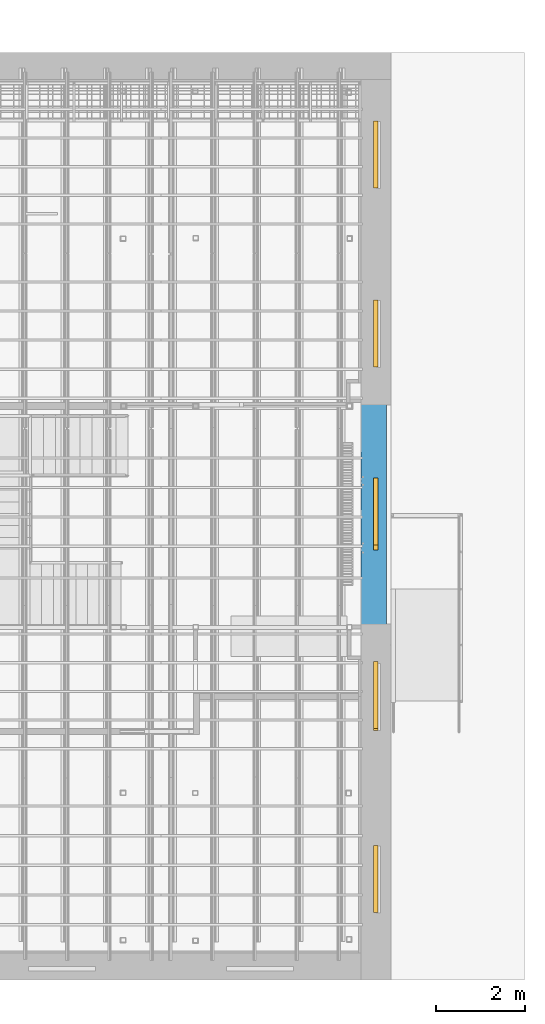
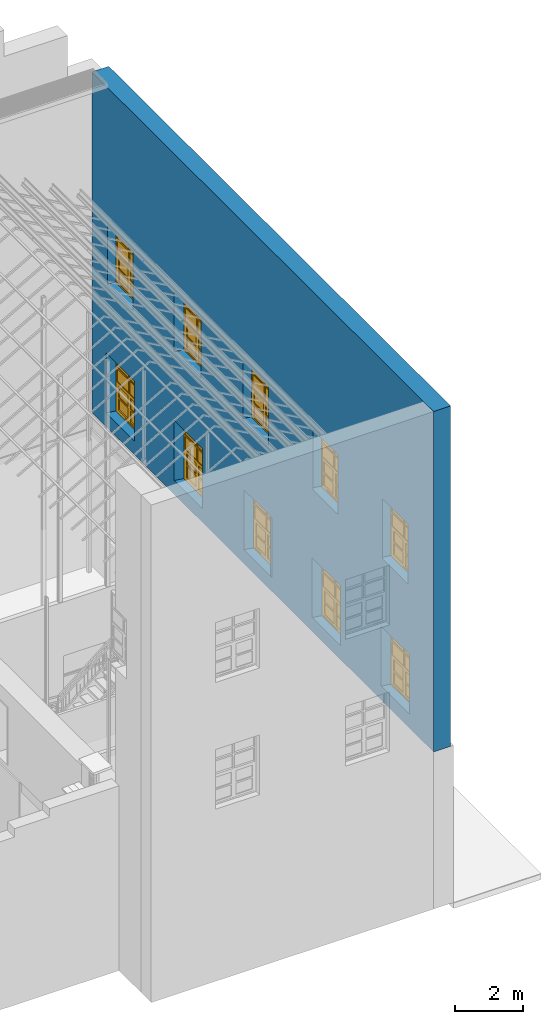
"""IFC2X3 building model written with IfcOpenShell, lengths in metres."""

import ifcopenshell
import ifcopenshell.guid

model = None  # the IFC model being written
_history = None  # IfcOwnerHistory: only IFC2X3 demands one
_inside = {}  # id of a spatial element -> (the spatial element, [elements in it])
_under = {}  # id of a project, library or spatial element -> (it, [spatial elements below it])
_declared = {}  # id of a project -> (the project, [libraries it declares])
_typed = {}  # id of a type object -> (the type object, [elements of that type])
_made_of = {}  # id of a material, layer set ... -> (it, [elements and type objects made of it])


def new_model(schema):
    """Start an empty IFC model of exactly this schema.

    Asked for "IFC4X3", IfcOpenShell would pick the latest addendum, in which some entities
    have other attributes; the version numbers below select the first issue.
    IFC2X3 requires an IfcOwnerHistory on every rooted entity: one is made here for all.
    """
    global model, _history
    if schema == "IFC4X3":
        model = ifcopenshell.file(schema_version=(4, 3, 0, 0))
    else:
        model = ifcopenshell.file(schema=schema)
    _inside.clear()
    _under.clear()
    _declared.clear()
    _typed.clear()
    _made_of.clear()
    _history = None
    if model.schema == "IFC2X3":
        org = make("IfcOrganization", Name="unknown")
        user = make(
            "IfcPersonAndOrganization",
            ThePerson=make("IfcPerson", FamilyName="unknown"),
            TheOrganization=org,
        )
        app = make(
            "IfcApplication",
            ApplicationDeveloper=org,
            Version="unknown",
            ApplicationFullName="unknown",
            ApplicationIdentifier="unknown",
        )
        _history = make(
            "IfcOwnerHistory",
            OwningUser=user,
            OwningApplication=app,
            ChangeAction="ADDED",
            CreationDate=0,
        )
    return model


def make(cls, **values):
    """One entity of the class cls with the attributes given. An attribute that is None is left unset."""
    return model.create_entity(
        cls, **{name: value for name, value in values.items() if value is not None}
    )


def entity(cls, *values):
    """Any entity or typed value of the class cls, its attributes in the order of the schema. None: left unset."""
    e = model.create_entity(cls)
    for i, value in enumerate(values):
        if value is not None:
            e[i] = value
    return e


def rooted(cls, **values):
    """An entity with a GlobalId (a new one), such as an element, a storey or a relation."""
    return make(cls, GlobalId=ifcopenshell.guid.new(), OwnerHistory=_history, **values)


def si_unit(unit_type, name, prefix=None):
    """IfcSIUnit, for example si_unit("LENGTHUNIT", "METRE", prefix="MILLI")."""
    return make("IfcSIUnit", UnitType=unit_type, Prefix=prefix, Name=name)


def converted_unit(unit_type, name, factor, base, dimensions=None, offset=None):
    """IfcConversionBasedUnit, such as the inch: factor (a typed value) times the base unit."""
    return make(
        "IfcConversionBasedUnit"
        if offset is None
        else "IfcConversionBasedUnitWithOffset",
        ConversionOffset=offset,
        Dimensions=None
        if dimensions is None
        else entity("IfcDimensionalExponents", *dimensions),
        UnitType=unit_type,
        Name=name,
        ConversionFactor=make(
            "IfcMeasureWithUnit", ValueComponent=factor, UnitComponent=base
        ),
    )


def derived_unit(unit_type, elements):
    """IfcDerivedUnit: a product of units, each with its exponent."""
    return make(
        "IfcDerivedUnit",
        Elements=[
            make("IfcDerivedUnitElement", Unit=unit, Exponent=power)
            for unit, power in elements
        ],
        UnitType=unit_type,
    )


def assignment(units):
    """IfcUnitAssignment: the units of a project."""
    return None if units is None else make("IfcUnitAssignment", Units=units)


def point(xyz):
    """IfcCartesianPoint."""
    return None if xyz is None else make("IfcCartesianPoint", Coordinates=xyz)


def direction(xyz):
    """IfcDirection."""
    return None if xyz is None else make("IfcDirection", DirectionRatios=xyz)


def frame(location, z_axis=None, x_axis=None):
    """IfcAxis2Placement3D, a coordinate frame: its origin and axes. An axis left out is left unset."""
    return make(
        "IfcAxis2Placement3D",
        Location=point(location),
        Axis=direction(z_axis),
        RefDirection=direction(x_axis),
    )


def frame_2d(location, x_axis=None):
    """IfcAxis2Placement2D, a coordinate frame in the plane: its origin and x axis."""
    return make(
        "IfcAxis2Placement2D", Location=point(location), RefDirection=direction(x_axis)
    )


def origin():
    """The frame at (0, 0, 0) with its axes left unset."""
    return frame((0.0, 0.0, 0.0))


def place(relative_to, where):
    """IfcLocalPlacement: puts the frame where relative to a parent placement (None: the world)."""
    return make(
        "IfcLocalPlacement", PlacementRelTo=relative_to, RelativePlacement=where
    )


def context(
    kind, dimensions, precision=None, world=None, true_north=None, identifier=None
):
    """IfcGeometricRepresentationContext, for example the 3D "Model" context."""
    return make(
        "IfcGeometricRepresentationContext",
        ContextIdentifier=identifier,
        ContextType=kind,
        CoordinateSpaceDimension=dimensions,
        Precision=precision,
        WorldCoordinateSystem=world,
        TrueNorth=true_north,
    )


def subcontext(parent, identifier, kind, view, scale=None):
    """IfcGeometricRepresentationSubContext, for example "Body" below "Model"."""
    return make(
        "IfcGeometricRepresentationSubContext",
        ContextIdentifier=identifier,
        ContextType=kind,
        ParentContext=parent,
        TargetScale=scale,
        TargetView=view,
    )


def project(units=None, contexts=None):
    """IfcProject with its units and contexts."""
    return rooted(
        "IfcProject",
        Name="project",
        RepresentationContexts=contexts,
        UnitsInContext=assignment(units),
    )


def spatial(cls, under=None, at=None, **own):
    """A site, building, storey or space (cls), placed at a placement, below another one or the project."""
    s = rooted(cls, ObjectPlacement=at, **own)
    if under is not None:
        _under.setdefault(under.id(), (under, []))[1].append(s)
    return s


def polyline(points):
    """IfcPolyline through the points."""
    return make("IfcPolyline", Points=[point(p) for p in points])


def profile(cls, at=None, kind="AREA", **sizes):
    """A parametric profile (cls). Its sizes go by their IFC names, for example OverallWidth=200.0."""
    return make(cls, ProfileType=kind, Position=at, **sizes)


def rectangle(**sizes):
    """IfcRectangleProfileDef."""
    return profile("IfcRectangleProfileDef", **sizes)


def outline(outer, holes=None, kind="AREA"):
    """IfcArbitraryClosedProfileDef: a profile drawn as a closed curve; with holes, ...WithVoids."""
    if holes is None:
        return make("IfcArbitraryClosedProfileDef", ProfileType=kind, OuterCurve=outer)
    return make(
        "IfcArbitraryProfileDefWithVoids",
        ProfileType=kind,
        OuterCurve=outer,
        InnerCurves=holes,
    )


def extrude(swept, where, along, depth):
    """IfcExtrudedAreaSolid: the profile swept, set in the frame where, extruded along a direction by depth."""
    return make(
        "IfcExtrudedAreaSolid",
        SweptArea=swept,
        Position=where,
        ExtrudedDirection=direction(along),
        Depth=depth,
    )


def faces_of(points, faces, orient=None, outer=None):
    """IfcFace entities. A face is a list of loops; a loop is a list of indices into points, from 0.

    orient and outer hold one flag for each loop. By default every Orientation is true, the
    first loop of a face is its IfcFaceOuterBound and the others are IfcFaceBound.
    """
    made = []
    for i, loops in enumerate(faces):
        bounds = []
        for j, loop in enumerate(loops):
            is_outer = j == 0 if outer is None else outer[i][j]
            bounds.append(
                make(
                    "IfcFaceOuterBound" if is_outer else "IfcFaceBound",
                    Bound=make("IfcPolyLoop", Polygon=[points[k] for k in loop]),
                    Orientation=True if orient is None else orient[i][j],
                )
            )
        made.append(make("IfcFace", Bounds=bounds))
    return made


def faceted_brep(points, faces, orient=None, outer=None, voids=None):
    """IfcFacetedBrep: a solid bounded by flat faces; with voids (closed shells), ...WithVoids."""
    shared = [point(p) for p in points]
    hull = make("IfcClosedShell", CfsFaces=faces_of(shared, faces, orient, outer))
    if voids is None:
        return make("IfcFacetedBrep", Outer=hull)
    return make(
        "IfcFacetedBrepWithVoids",
        Outer=hull,
        Voids=[
            make(cls, CfsFaces=faces_of(shared, fs, o, b)) for cls, fs, o, b in voids
        ],
    )


def shape(context_of_items, identifier, shape_type, items):
    """IfcShapeRepresentation: the items that make up one representation, for example the "Body"."""
    return make(
        "IfcShapeRepresentation",
        ContextOfItems=context_of_items,
        RepresentationIdentifier=identifier,
        RepresentationType=shape_type,
        Items=items,
    )


def source(mapping_origin, context_of_items, identifier, shape_type, items):
    """IfcRepresentationMap: a shape defined once, which mapped items show again and again."""
    return make(
        "IfcRepresentationMap",
        MappingOrigin=mapping_origin,
        MappedRepresentation=shape(context_of_items, identifier, shape_type, items),
    )


def transform(
    local_origin,
    x_axis=None,
    y_axis=None,
    z_axis=None,
    scale=None,
    scale2=None,
    scale3=None,
    uniform=True,
):
    """IfcCartesianTransformationOperator3D, or its non-uniform kind. x_axis, y_axis, z_axis: its Axis1, 2, 3."""
    if uniform:
        return make(
            "IfcCartesianTransformationOperator3D",
            Axis1=direction(x_axis),
            Axis2=direction(y_axis),
            LocalOrigin=point(local_origin),
            Scale=scale,
            Axis3=direction(z_axis),
        )
    return make(
        "IfcCartesianTransformationOperator3DnonUniform",
        Axis1=direction(x_axis),
        Axis2=direction(y_axis),
        LocalOrigin=point(local_origin),
        Scale=scale,
        Axis3=direction(z_axis),
        Scale2=scale2,
        Scale3=scale3,
    )


def mapped(mapping_source, mapping_target):
    """IfcMappedItem: shows the shape of a source again, moved by a transform."""
    return make(
        "IfcMappedItem", MappingSource=mapping_source, MappingTarget=mapping_target
    )


def material(Name=None, Category=None):
    """IfcMaterial."""
    return make("IfcMaterial", Name=Name, Category=Category)


def material_list(materials):
    """IfcMaterialList."""
    return make("IfcMaterialList", Materials=materials)


def layer(
    of_material, thickness, ventilated=None, Name=None, Category=None, Priority=None
):
    """IfcMaterialLayer: one layer of a wall or slab, of a material (None: an air gap)."""
    return make(
        "IfcMaterialLayer",
        Material=of_material,
        LayerThickness=thickness,
        IsVentilated=ventilated,
        Name=Name,
        Category=Category,
        Priority=Priority,
    )


def layer_set(layers, Name=None):
    """IfcMaterialLayerSet."""
    return make("IfcMaterialLayerSet", MaterialLayers=layers, LayerSetName=Name)


def layer_usage(for_layer_set, set_direction, sense, offset, extent=None):
    """IfcMaterialLayerSetUsage: how a layer set lies in its element."""
    return make(
        "IfcMaterialLayerSetUsage",
        ForLayerSet=for_layer_set,
        LayerSetDirection=set_direction,
        DirectionSense=sense,
        OffsetFromReferenceLine=offset,
        ReferenceExtent=extent,
    )


def made_of(thing, what):
    """Note that an element or type object is made of a material, layer set ...; save() writes the relation."""
    if what is not None:
        _made_of.setdefault(what.id(), (what, []))[1].append(thing)
    return thing


def type_object(cls, material=None, **own):
    """A type object (cls), such as IfcWallType, which elements share."""
    return made_of(rooted(cls, **own), material)


def type_shapes(of_type, sources):
    """Give a type object the sources (RepresentationMaps) that its elements show as mapped items."""
    of_type.RepresentationMaps = sources


def element(
    cls,
    number,
    at=None,
    inside=None,
    cuts=None,
    type_object=None,
    material=None,
    context=None,
    identifier="Body",
    shape_type=None,
    held_by="IfcProductDefinitionShape",
    body=None,
    shapes=None,
    **own,
):
    """One element of the class cls, such as IfcWall. Its Tag is "e" and its number.

    at: its placement. inside: the storey or other place that contains it. cuts: it is an
    opening in that element (IfcRelVoidsElement). A single representation is given by context,
    identifier, shape_type and body (its items); several are given by shapes. held_by: the class
    of the entity that holds the representations. save() writes the other relations.
    """
    e = rooted(cls, Tag="e%d" % number, ObjectPlacement=at, **own)
    if body is not None:
        shapes = [shape(context, identifier, shape_type, body)]
    if shapes is not None:
        e.Representation = make(held_by, Representations=shapes)
    if inside is not None:
        _inside.setdefault(inside.id(), (inside, []))[1].append(e)
    if cuts is not None:
        rooted(
            "IfcRelVoidsElement", RelatingBuildingElement=cuts, RelatedOpeningElement=e
        )
    if type_object is not None:
        _typed.setdefault(type_object.id(), (type_object, []))[1].append(e)
    return made_of(e, material)


def fill(opening, filler):
    """IfcRelFillsElement: the door or window that sits in an opening."""
    return rooted(
        "IfcRelFillsElement",
        RelatingOpeningElement=opening,
        RelatedBuildingElement=filler,
    )


def aggregate(whole, parts):
    """IfcRelAggregates: a whole, such as a stair, and the parts it consists of."""
    return rooted("IfcRelAggregates", RelatingObject=whole, RelatedObjects=parts)


def save(model, path):
    """Write the relations noted so far, then the file.

    IfcRelAggregates (storeys below a building ...), IfcRelContainedInSpatialStructure (elements
    in a storey), IfcRelDefinesByType, IfcRelAssociatesMaterial and IfcRelDeclares: one each for
    every whole, place, type object, material and project.
    """
    for whole, parts in _under.values():
        aggregate(whole, parts)
    for where, things in _inside.values():
        rooted(
            "IfcRelContainedInSpatialStructure",
            RelatedElements=things,
            RelatingStructure=where,
        )
    for kind, things in _typed.values():
        rooted("IfcRelDefinesByType", RelatedObjects=things, RelatingType=kind)
    for what, things in _made_of.values():
        rooted("IfcRelAssociatesMaterial", RelatedObjects=things, RelatingMaterial=what)
    for by, libraries in _declared.values():
        rooted("IfcRelDeclares", RelatingContext=by, RelatedDefinitions=libraries)
    model.write(path)


model = new_model("IFC2X3")

# Units and contexts
model_context = context("Model", 3, precision=1e-05, world=origin(), true_north=direction((6.12303176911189e-17, 1.0)))
body_context = subcontext(model_context, "Body", "Model", "MODEL_VIEW")
ifc_project = project(units=[si_unit("LENGTHUNIT", "METRE"), si_unit("AREAUNIT", "SQUARE_METRE"), si_unit("VOLUMEUNIT", "CUBIC_METRE"), converted_unit("PLANEANGLEUNIT", "DEGREE", entity("IfcRatioMeasure", 0.0174532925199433), si_unit("PLANEANGLEUNIT", "RADIAN"), dimensions=[0, 0, 0, 0, 0, 0, 0]), si_unit("MASSUNIT", "GRAM", prefix="KILO"), derived_unit("MASSDENSITYUNIT", [(si_unit("MASSUNIT", "GRAM", prefix="KILO"), 1), (si_unit("LENGTHUNIT", "METRE"), -3)]), derived_unit("MOMENTOFINERTIAUNIT", [(si_unit("LENGTHUNIT", "METRE"), 4)]), si_unit("TIMEUNIT", "SECOND"), si_unit("FREQUENCYUNIT", "HERTZ"), si_unit("THERMODYNAMICTEMPERATUREUNIT", "DEGREE_CELSIUS"), derived_unit("THERMALTRANSMITTANCEUNIT", [(si_unit("MASSUNIT", "GRAM", prefix="KILO"), 1), (si_unit("THERMODYNAMICTEMPERATUREUNIT", "KELVIN"), -1), (si_unit("TIMEUNIT", "SECOND"), -3)]), derived_unit("VOLUMETRICFLOWRATEUNIT", [(si_unit("LENGTHUNIT", "METRE"), 3), (si_unit("TIMEUNIT", "SECOND"), -1)]), si_unit("ELECTRICCURRENTUNIT", "AMPERE"), si_unit("ELECTRICVOLTAGEUNIT", "VOLT"), si_unit("POWERUNIT", "WATT"), si_unit("FORCEUNIT", "NEWTON", prefix="KILO"), si_unit("ILLUMINANCEUNIT", "LUX"), si_unit("LUMINOUSFLUXUNIT", "LUMEN"), si_unit("LUMINOUSINTENSITYUNIT", "CANDELA"), derived_unit("USERDEFINED", [(si_unit("MASSUNIT", "GRAM", prefix="KILO"), -1), (si_unit("LENGTHUNIT", "METRE"), -2), (si_unit("TIMEUNIT", "SECOND"), 3), (si_unit("LUMINOUSFLUXUNIT", "LUMEN"), 1)]), derived_unit("LINEARVELOCITYUNIT", [(si_unit("LENGTHUNIT", "METRE"), 1), (si_unit("TIMEUNIT", "SECOND"), -1)]), si_unit("PRESSUREUNIT", "PASCAL"), derived_unit("USERDEFINED", [(si_unit("LENGTHUNIT", "METRE"), -2), (si_unit("MASSUNIT", "GRAM", prefix="KILO"), 1), (si_unit("TIMEUNIT", "SECOND"), -2)]), derived_unit("LINEARFORCEUNIT", [(si_unit("MASSUNIT", "GRAM", prefix="KILO"), 1), (si_unit("LENGTHUNIT", "METRE"), 1), (si_unit("TIMEUNIT", "SECOND"), -2), (si_unit("LENGTHUNIT", "METRE"), -1)]), derived_unit("PLANARFORCEUNIT", [(si_unit("MASSUNIT", "GRAM", prefix="KILO"), 1), (si_unit("LENGTHUNIT", "METRE"), 1), (si_unit("TIMEUNIT", "SECOND"), -2), (si_unit("LENGTHUNIT", "METRE"), -2)])], contexts=[model_context])

# Site, building, storey
site_placement = place(None, origin())
site = spatial("IfcSite", under=ifc_project, at=site_placement, Name="Superficie", CompositionType="ELEMENT")
building_placement = place(site_placement, origin())
building = spatial("IfcBuilding", under=site, at=building_placement, Name="Telegestiones", CompositionType="ELEMENT")
storey_1_placement = place(building_placement, origin())
storey_1 = spatial("IfcBuildingStorey", under=building, at=storey_1_placement, Name="Nivel 0_NPT", CompositionType="ELEMENT", Elevation=0.0)

# Wall, openings
ifc_material_1 = material(Name="Albañilería expuesta")
ifc_layer_1 = layer(ifc_material_1, 0.12)
ifc_material_2 = material(Name="Muro por defecto")
ifc_layer_2 = layer(ifc_material_2, 0.46)
ifc_layer_set = layer_set([ifc_layer_1, ifc_layer_2], Name="Muro básico:ARQ-MU-EX-58-Lad")
ifc_layer_usage = layer_usage(ifc_layer_set, "AXIS2", "NEGATIVE", 0.29)
wall_type = type_object("IfcWallType", Name="Muro básico:ARQ-MU-EX-58-Lad", PredefinedType="STANDARD", material=ifc_layer_set)
wall_placement = place(storey_1_placement, frame((15.2548126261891, 13.7436072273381, 5.45000000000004), z_axis=(0.0, 0.0, 1.0), x_axis=(0.0, -1.0, 0.0)))
wall = element("IfcWallStandardCase", 1, at=wall_placement, inside=storey_1, type_object=wall_type, material=ifc_layer_usage, Name="Muro básico:ARQ-MU-EX-58-Lad", ObjectType="Muro básico:ARQ-MU-EX-58-Lad", context=body_context, shape_type="SweptSolid", body=[
    extrude(rectangle(XDim=20.1499743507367, YDim=0.579999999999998, at=frame_2d((10.0749871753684, 1.66533453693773e-16), x_axis=(-1.0, 0.0))), origin(), (0.0, 0.0, 1.0), 12.25),
])
opening_1_placement = place(wall_placement, frame((18.7190433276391, -0.28999999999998, 5.12999999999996)))
element("IfcOpeningElement", 2, at=opening_1_placement, cuts=wall, Name="Muro básico:ARQ-MU-EX-58-Lad", ObjectType="Opening", context=body_context, shape_type="Brep", body=[
    faceted_brep([(-0.0799999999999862, 0.390224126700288, 2.15), (-0.0800000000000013, 0.000224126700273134, 2.15), (0.0, 0.000224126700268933, 2.15), (-0.0799999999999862, 0.390224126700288, 0.0), (-0.0800000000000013, 0.000224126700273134, 0.0), (0.0, 0.000224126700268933, 0.0)], [[[0, 1, 2]], [[1, 0, 3, 4]], [[2, 1, 4, 5]], [[0, 2, 5, 3]], [[3, 5, 4]]]),
    faceted_brep([(-17.79, 0.390224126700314, 0.0), (-17.79, 0.000224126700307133, 0.0), (-17.87, 0.000224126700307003, 0.0), (-17.87, 0.000224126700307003, 2.15), (-17.79, 0.390224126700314, 2.15), (-17.79, 0.000224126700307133, 2.15)], [[[0, 1, 2]], [[3, 4, 0, 2]], [[5, 3, 2, 1]], [[4, 5, 1, 0]], [[4, 3, 5]]]),
    faceted_brep([(-16.29, 0.000224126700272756, 2.15), (-16.29, 0.390224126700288, 2.15), (-16.29, 0.390224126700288, 0.0), (-16.29, 0.000224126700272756, 0.0), (-16.21, 0.000224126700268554, 2.15), (-16.21, 0.000224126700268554, 0.0)], [[[0, 1, 2, 3]], [[4, 0, 3, 5]], [[1, 4, 5, 2]], [[2, 5, 3]], [[1, 0, 4]]]),
    faceted_brep([(-13.86, 0.0, 2.15), (-13.78, 0.389999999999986, 2.15), (-13.78, 0.389999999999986, 0.0), (-13.86, 0.0, 0.0), (-13.78, 0.0, 2.15), (-13.78, 0.0, 0.0)], [[[0, 1, 2, 3]], [[4, 0, 3, 5]], [[1, 4, 5, 2]], [[2, 5, 3]], [[1, 0, 4]]]),
    faceted_brep([(-12.28, 0.000224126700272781, 2.15), (-12.28, 0.390224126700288, 2.15), (-12.28, 0.390224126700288, 0.0), (-12.28, 0.000224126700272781, 0.0), (-12.2, 0.00022412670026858, 2.15), (-12.2, 0.00022412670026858, 0.0)], [[[0, 1, 2, 3]], [[4, 0, 3, 5]], [[1, 4, 5, 2]], [[2, 5, 3]], [[1, 0, 4]]]),
    faceted_brep([(-9.885, 0.000224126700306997, 2.15), (-9.80499999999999, 0.390224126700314, 2.15), (-9.80499999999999, 0.390224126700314, 0.0), (-9.885, 0.000224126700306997, 0.0), (-9.805, 0.000224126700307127, 2.15), (-9.805, 0.000224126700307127, 0.0)], [[[0, 1, 2, 3]], [[4, 0, 3, 5]], [[1, 4, 5, 2]], [[2, 5, 3]], [[1, 0, 4]]]),
    faceted_brep([(-8.305, 0.00022412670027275, 2.15), (-8.30499999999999, 0.390224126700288, 2.15), (-8.30499999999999, 0.390224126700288, 0.0), (-8.305, 0.00022412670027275, 0.0), (-8.225, 0.000224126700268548, 2.15), (-8.225, 0.000224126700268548, 0.0)], [[[0, 1, 2, 3]], [[4, 0, 3, 5]], [[1, 4, 5, 2]], [[2, 5, 3]], [[1, 0, 4]]]),
    faceted_brep([(-5.7725, 0.000224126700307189, 2.15), (-5.69249999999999, 0.390224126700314, 2.15), (-5.69249999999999, 0.390224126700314, 0.0), (-5.7725, 0.000224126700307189, 0.0), (-5.69249999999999, 0.000224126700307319, 2.15), (-5.69249999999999, 0.000224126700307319, 0.0)], [[[0, 1, 2, 3]], [[4, 0, 3, 5]], [[1, 4, 5, 2]], [[2, 5, 3]], [[1, 0, 4]]]),
    faceted_brep([(-4.1925, 0.000224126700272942, 2.15), (-4.19249999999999, 0.390224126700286, 2.15), (-4.19249999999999, 0.390224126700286, 0.0), (-4.1925, 0.000224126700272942, 0.0), (-4.1125, 0.00022412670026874, 2.15), (-4.1125, 0.00022412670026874, 0.0)], [[[0, 1, 2, 3]], [[4, 0, 3, 5]], [[1, 4, 5, 2]], [[2, 5, 3]], [[1, 0, 4]]]),
    faceted_brep([(-1.65999999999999, 0.000224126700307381, 2.15), (-1.57999999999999, 0.390224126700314, 2.15), (-1.57999999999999, 0.390224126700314, 0.0), (-1.65999999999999, 0.000224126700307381, 0.0), (-1.57999999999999, 0.000224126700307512, 2.15), (-1.57999999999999, 0.000224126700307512, 0.0)], [[[0, 1, 2, 3]], [[4, 0, 3, 5]], [[1, 4, 5, 2]], [[2, 5, 3]], [[1, 0, 4]]]),
])
opening_2_placement = place(wall_placement, frame((18.7190433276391, -0.289999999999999, 0.499999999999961)))
element("IfcOpeningElement", 3, at=opening_2_placement, cuts=wall, Name="Muro básico:ARQ-MU-EX-58-Lad", ObjectType="Opening", context=body_context, shape_type="Brep", body=[
    faceted_brep([(-17.87, 0.0, 2.15), (-17.79, 0.0, 2.15), (-17.79, 0.390000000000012, 2.15), (-17.87, 0.0, 0.0), (-17.79, 0.0, 0.0), (-17.79, 0.390000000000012, 0.0)], [[[0, 1, 2]], [[1, 0, 3, 4]], [[2, 1, 4, 5]], [[0, 2, 5, 3]], [[3, 5, 4]]]),
    faceted_brep([(0.0, 0.0, 0.0), (-0.0800000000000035, 0.0, 0.0), (-0.0800000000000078, 0.390000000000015, 0.0), (-0.0800000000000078, 0.390000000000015, 2.15), (0.0, 0.0, 2.15), (-0.0800000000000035, 0.0, 2.15)], [[[0, 1, 2]], [[3, 4, 0, 2]], [[5, 3, 2, 1]], [[4, 5, 1, 0]], [[4, 3, 5]]]),
    faceted_brep([(-16.29, 0.390000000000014, 2.15), (-16.21, 0.0, 2.15), (-16.21, 0.0, 0.0), (-16.29, 0.390000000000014, 0.0), (-16.29, 0.0, 2.15), (-16.29, 0.0, 0.0)], [[[0, 1, 2, 3]], [[4, 0, 3, 5]], [[1, 4, 5, 2]], [[2, 5, 3]], [[1, 0, 4]]]),
    faceted_brep([(-13.78, 0.0, 2.15), (-13.86, 0.0, 2.15), (-13.86, 0.0, 0.0), (-13.78, 0.0, 0.0), (-13.78, 0.390000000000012, 2.15), (-13.78, 0.390000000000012, 0.0)], [[[0, 1, 2, 3]], [[4, 0, 3, 5]], [[1, 4, 5, 2]], [[2, 5, 3]], [[1, 0, 4]]]),
    faceted_brep([(-12.28, 0.390000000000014, 2.15), (-12.2, 0.0, 2.15), (-12.2, 0.0, 0.0), (-12.28, 0.390000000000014, 0.0), (-12.28, 0.0, 2.15), (-12.28, 0.0, 0.0)], [[[0, 1, 2, 3]], [[4, 0, 3, 5]], [[1, 4, 5, 2]], [[2, 5, 3]], [[1, 0, 4]]]),
    faceted_brep([(-9.68808665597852, 0.0, 2.15), (-9.75272188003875, 0.0, 2.15), (-9.75272188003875, 0.0, 0.0), (-9.68808665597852, 0.0, 0.0), (-9.68808665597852, 0.315096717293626, 2.15), (-9.68808665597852, 0.315096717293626, 0.0)], [[[0, 1, 2, 3]], [[4, 0, 3, 5]], [[1, 4, 5, 2]], [[2, 5, 3]], [[1, 0, 4]]]),
    faceted_brep([(-8.18784044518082, 0.390000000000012, 2.15), (-8.10784044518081, 0.0, 2.15), (-8.10784044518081, 0.0, 0.0), (-8.18784044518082, 0.390000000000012, 0.0), (-8.18784044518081, 0.0, 2.15), (-8.18784044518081, 0.0, 0.0)], [[[0, 1, 2, 3]], [[4, 0, 3, 5]], [[1, 4, 5, 2]], [[2, 5, 3]], [[1, 0, 4]]]),
    faceted_brep([(-5.64904332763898, 0.0, 2.15), (-5.72904332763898, 0.0, 2.15), (-5.72904332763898, 0.0, 0.0), (-5.64904332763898, 0.0, 0.0), (-5.64904332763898, 0.39000000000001, 2.15), (-5.64904332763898, 0.39000000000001, 0.0)], [[[0, 1, 2, 3]], [[4, 0, 3, 5]], [[1, 4, 5, 2]], [[2, 5, 3]], [[1, 0, 4]]]),
    faceted_brep([(-4.14904332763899, 0.390000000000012, 2.15), (-4.06904332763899, 0.0, 2.15), (-4.06904332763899, 0.0, 0.0), (-4.14904332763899, 0.390000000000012, 0.0), (-4.14904332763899, 0.0, 2.15), (-4.14904332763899, 0.0, 0.0)], [[[0, 1, 2, 3]], [[4, 0, 3, 5]], [[1, 4, 5, 2]], [[2, 5, 3]], [[1, 0, 4]]]),
    faceted_brep([(-1.58000000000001, 0.0, 2.15), (-1.66000000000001, 0.0, 2.15), (-1.66000000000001, 0.0, 0.0), (-1.58000000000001, 0.0, 0.0), (-1.58, 0.39000000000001, 2.15), (-1.58, 0.39000000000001, 0.0)], [[[0, 1, 2, 3]], [[4, 0, 3, 5]], [[1, 4, 5, 2]], [[2, 5, 3]], [[1, 0, 4]]]),
])
opening_3_placement = place(wall_placement, frame((0.929043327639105, -0.289999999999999, 0.499999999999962)))
opening_3 = element("IfcOpeningElement", 4, at=opening_3_placement, cuts=wall, Name="ARQ-VE-EX-215x170-Ace:ARQ-VE-EX-215x170-Ace:1", ObjectType="Opening", context=body_context, shape_type="SweptSolid", body=[
    extrude(rectangle(XDim=2.15, YDim=1.5, at=frame_2d((1.075, 0.75), x_axis=(1.0, 0.0))), frame((0.0, 0.0, 0.0), z_axis=(0.0, 1.0, 0.0), x_axis=(0.0, 0.0, 1.0)), (0.0, 0.0, 1.0), 0.58),
])
opening_4_placement = place(wall_placement, frame((9.03095667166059, -0.290000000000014, 0.499999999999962)))
opening_4 = element("IfcOpeningElement", 5, at=opening_4_placement, cuts=wall, Name="ARQ-VE-EX-215x170-Ace:ARQ-VE-EX-215x170-Ace:1", ObjectType="Opening", context=body_context, shape_type="SweptSolid", body=[
    extrude(rectangle(XDim=2.15, YDim=1.5, at=frame_2d((1.075, 0.749999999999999), x_axis=(1.0, 0.0))), frame((0.0, 0.0, 0.0), z_axis=(0.0, 1.0, 0.0), x_axis=(0.0, 0.0, 1.0)), (0.0, 0.0, 1.0), 0.58),
])
opening_5_placement = place(wall_placement, frame((17.1390433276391, -0.290000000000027, 0.499999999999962)))
opening_5 = element("IfcOpeningElement", 6, at=opening_5_placement, cuts=wall, Name="ARQ-VE-EX-215x170-Ace:ARQ-VE-EX-215x170-Ace:1", ObjectType="Opening", context=body_context, shape_type="SweptSolid", body=[
    extrude(rectangle(XDim=2.15, YDim=1.5, at=frame_2d((1.075, 0.750000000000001), x_axis=(1.0, 0.0))), frame((0.0, 0.0, 0.0), z_axis=(0.0, 1.0, 0.0), x_axis=(0.0, 0.0, 1.0)), (0.0, 0.0, 1.0), 0.58),
])
opening_6_placement = place(wall_placement, frame((13.0700000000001, -0.29000000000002, 0.499999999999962)))
opening_6 = element("IfcOpeningElement", 7, at=opening_6_placement, cuts=wall, Name="ARQ-VE-EX-215x170-Ace:ARQ-VE-EX-215x170-Ace:1", ObjectType="Opening", context=body_context, shape_type="SweptSolid", body=[
    extrude(rectangle(XDim=2.15, YDim=1.5, at=frame_2d((1.075, 0.750000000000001), x_axis=(1.0, 0.0))), frame((0.0, 0.0, 0.0), z_axis=(0.0, 1.0, 0.0), x_axis=(0.0, 0.0, 1.0)), (0.0, 0.0, 1.0), 0.58),
])
opening_7_placement = place(wall_placement, frame((4.93904332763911, -0.290000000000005, 0.499999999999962)))
opening_7 = element("IfcOpeningElement", 8, at=opening_7_placement, cuts=wall, Name="ARQ-VE-EX-215x170-Ace:ARQ-VE-EX-215x170-Ace:1", ObjectType="Opening", context=body_context, shape_type="SweptSolid", body=[
    extrude(rectangle(XDim=2.15, YDim=1.5, at=frame_2d((1.075, 0.75), x_axis=(1.0, 0.0))), frame((0.0, 0.0, 0.0), z_axis=(0.0, 1.0, 0.0), x_axis=(0.0, 0.0, 1.0)), (0.0, 0.0, 1.0), 0.58),
])
opening_8_placement = place(wall_placement, frame((0.929043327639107, -0.289999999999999, 5.12999999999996)))
opening_8 = element("IfcOpeningElement", 9, at=opening_8_placement, cuts=wall, Name="ARQ-VE-EX-215x170-Ace:ARQ-VE-EX-215x170-Ace:1", ObjectType="Opening", context=body_context, shape_type="SweptSolid", body=[
    extrude(rectangle(XDim=2.15, YDim=1.5, at=frame_2d((1.075, 0.75), x_axis=(1.0, 0.0))), frame((0.0, 0.0, 0.0), z_axis=(0.0, 1.0, 0.0), x_axis=(0.0, 0.0, 1.0)), (0.0, 0.0, 1.0), 0.58),
])
opening_9_placement = place(wall_placement, frame((8.9140433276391, -0.290000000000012, 5.12999999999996)))
opening_9 = element("IfcOpeningElement", 10, at=opening_9_placement, cuts=wall, Name="ARQ-VE-EX-215x170-Ace:ARQ-VE-EX-215x170-Ace:1", ObjectType="Opening", context=body_context, shape_type="SweptSolid", body=[
    extrude(rectangle(XDim=2.15, YDim=1.5, at=frame_2d((1.075, 0.750000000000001), x_axis=(1.0, 0.0))), frame((0.0, 0.0, 0.0), z_axis=(0.0, 1.0, 0.0), x_axis=(0.0, 0.0, 1.0)), (0.0, 0.0, 1.0), 0.58),
])
opening_10_placement = place(wall_placement, frame((17.1390433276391, -0.290000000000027, 5.12999999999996)))
opening_10 = element("IfcOpeningElement", 11, at=opening_10_placement, cuts=wall, Name="ARQ-VE-EX-215x170-Ace:ARQ-VE-EX-215x170-Ace:1", ObjectType="Opening", context=body_context, shape_type="SweptSolid", body=[
    extrude(rectangle(XDim=2.15, YDim=1.5, at=frame_2d((1.075, 0.750000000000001), x_axis=(1.0, 0.0))), frame((0.0, 0.0, 0.0), z_axis=(0.0, 1.0, 0.0), x_axis=(0.0, 0.0, 1.0)), (0.0, 0.0, 1.0), 0.58),
])
opening_11_placement = place(wall_placement, frame((13.0265433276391, -0.29000000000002, 5.12999999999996)))
opening_11 = element("IfcOpeningElement", 12, at=opening_11_placement, cuts=wall, Name="ARQ-VE-EX-215x170-Ace:ARQ-VE-EX-215x170-Ace:1", ObjectType="Opening", context=body_context, shape_type="SweptSolid", body=[
    extrude(rectangle(XDim=2.15, YDim=1.5, at=frame_2d((1.075, 0.750000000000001), x_axis=(1.0, 0.0))), frame((0.0, 0.0, 0.0), z_axis=(0.0, 1.0, 0.0), x_axis=(0.0, 0.0, 1.0)), (0.0, 0.0, 1.0), 0.58),
])
opening_12_placement = place(wall_placement, frame((4.93904332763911, -0.290000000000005, 5.12999999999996)))
opening_12 = element("IfcOpeningElement", 13, at=opening_12_placement, cuts=wall, Name="ARQ-VE-EX-215x170-Ace:ARQ-VE-EX-215x170-Ace:1", ObjectType="Opening", context=body_context, shape_type="SweptSolid", body=[
    extrude(rectangle(XDim=2.15, YDim=1.5, at=frame_2d((1.075, 0.75), x_axis=(1.0, 0.0))), frame((0.0, 0.0, 0.0), z_axis=(0.0, 1.0, 0.0), x_axis=(0.0, 0.0, 1.0)), (0.0, 0.0, 1.0), 0.58),
])

# Storey
storey_2_placement = place(building_placement, frame((0.0, 0.0, 4.94)))
storey_2 = spatial("IfcBuildingStorey", under=building, at=storey_2_placement, Name="Nivel 1_NPT", CompositionType="ELEMENT", Elevation=4.94)

# Window
ifc_material_3 = material(Name="Nogal")
ifc_material_4 = material(Name="Vidrio")
ifc_material_list_1 = material_list([ifc_material_3, ifc_material_4, ifc_material_4, ifc_material_4, ifc_material_4, ifc_material_3, ifc_material_4, ifc_material_4, ifc_material_4, ifc_material_4, ifc_material_3])
ifc_material_list_2 = material_list([ifc_material_3, ifc_material_4, ifc_material_4, ifc_material_4, ifc_material_4, ifc_material_3, ifc_material_4, ifc_material_4, ifc_material_4, ifc_material_4, ifc_material_3])
window_style_1 = type_object("IfcWindowStyle", Name="ARQ-VE-EX-215x170-Ace:ARQ-VE-EX-215x170-Ace", ConstructionType="NOTDEFINED", OperationType="NOTDEFINED", ParameterTakesPrecedence=False, Sizeable=False, material=ifc_material_list_2)
shared_shape_1 = source(origin(), body_context, "Body", "SweptSolid", [
    extrude(outline(polyline([(-0.75, -1.075), (0.75, -1.075), (0.75, 1.075), (-0.75, 1.075), (-0.75, -1.075)]), holes=[polyline([(0.0249999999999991, -1.025), (0.0249999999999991, -0.549999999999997), (0.7, -0.550000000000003), (0.7, -1.025), (0.0249999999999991, -1.025)]), polyline([(0.7, -0.500000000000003), (0.0249999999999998, -0.500000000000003), (0.0249999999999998, -0.0249999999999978), (0.7, -0.0250000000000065), (0.7, -0.500000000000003)]), polyline([(-0.7, -0.550000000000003), (-0.0250000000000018, -0.550000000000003), (-0.0250000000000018, -1.025), (-0.7, -1.025), (-0.7, -0.550000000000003)]), polyline([(0.7, 0.0250000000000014), (-0.7, 0.0250000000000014), (-0.7, 1.025), (0.7, 1.025), (0.7, 0.0250000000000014)]), polyline([(-0.0250000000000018, -0.0250000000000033), (-0.0250000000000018, -0.499999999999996), (-0.7, -0.500000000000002), (-0.7, -0.0250000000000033), (-0.0250000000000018, -0.0250000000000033)])]), frame((0.750000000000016, 0.39, 1.075), z_axis=(0.0, -1.0, 0.0), x_axis=(-1.0, 0.0, 0.0)), (0.0, 0.0, 1.0), 0.1),
    extrude(rectangle(XDim=0.675000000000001, YDim=0.01, at=frame_2d((-2.77555756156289e-17, -2.16840434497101e-18), x_axis=(1.0, 0.0))), frame((0.387500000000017, 0.315, 1.1)), (0.0, 0.0, 1.0), 0.475000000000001),
    extrude(rectangle(XDim=0.674999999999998, YDim=0.01, at=frame_2d((0.0, 2.16840434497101e-18), x_axis=(1.0, 0.0))), frame((1.11250000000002, 0.315, 1.625)), (0.0, 0.0, 1.0), 0.474999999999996),
    extrude(rectangle(XDim=0.675000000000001, YDim=0.01, at=frame_2d((0.0, -2.16840434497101e-18), x_axis=(1.0, 0.0))), frame((0.387500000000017, 0.315, 1.625)), (0.0, 0.0, 1.0), 0.475),
    extrude(rectangle(XDim=0.674999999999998, YDim=0.01, at=frame_2d((0.0, 2.16840434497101e-18), x_axis=(1.0, 0.0))), frame((1.11250000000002, 0.315, 1.1)), (0.0, 0.0, 1.0), 0.474999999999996),
    extrude(outline(polyline([(-0.499999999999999, -0.349999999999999), (0.500000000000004, -0.349999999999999), (0.5, 0.350000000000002), (-0.500000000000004, 0.349999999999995), (-0.499999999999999, -0.349999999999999)]), holes=[polyline([(0.430000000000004, -0.279999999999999), (0.0250000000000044, -0.279999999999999), (0.025000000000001, 0.279999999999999), (0.43, 0.280000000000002), (0.430000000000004, -0.279999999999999)]), polyline([(-0.024999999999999, 0.280000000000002), (-0.0249999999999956, -0.279999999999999), (-0.429999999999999, -0.279999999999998), (-0.430000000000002, 0.279999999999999), (-0.024999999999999, 0.280000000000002)])]), frame((1.10000000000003, 0.38, 0.549999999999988), z_axis=(0.0, -1.0, 0.0), x_axis=(0.0, 0.0, -1.0)), (0.0, 0.0, 1.0), 0.08),
    extrude(rectangle(XDim=0.56, YDim=0.02, at=frame_2d((0.0, -4.33680868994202e-18), x_axis=(1.0, 0.0))), frame((0.400000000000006, 0.34, 0.574999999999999)), (0.0, 0.0, 1.0), 0.405000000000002),
    extrude(rectangle(XDim=0.56, YDim=0.02, at=frame_2d((2.77555756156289e-17, 4.33680868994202e-18), x_axis=(1.0, 0.0))), frame((1.10000000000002, 0.34, 0.574999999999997)), (0.0, 0.0, 1.0), 0.405000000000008),
    extrude(rectangle(XDim=0.56, YDim=0.02, at=frame_2d((2.77555756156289e-17, 4.33680868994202e-18), x_axis=(1.0, 0.0))), frame((1.10000000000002, 0.34, 0.12)), (0.0, 0.0, 1.0), 0.404999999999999),
    extrude(rectangle(XDim=0.56, YDim=0.02, at=frame_2d((0.0, -4.33680868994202e-18), x_axis=(1.0, 0.0))), frame((0.400000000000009, 0.34, 0.12)), (0.0, 0.0, 1.0), 0.404999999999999),
    extrude(outline(polyline([(-0.350000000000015, -0.500000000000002), (0.350000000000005, -0.500000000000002), (0.350000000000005, 0.500000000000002), (-0.349999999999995, 0.500000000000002), (-0.350000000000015, -0.500000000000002)]), holes=[polyline([(-0.279999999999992, 0.430000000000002), (0.280000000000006, 0.430000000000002), (0.280000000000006, 0.0250000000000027), (-0.279999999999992, 0.0250000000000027), (-0.279999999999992, 0.430000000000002)]), polyline([(0.280000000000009, -0.0249999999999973), (0.280000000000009, -0.430000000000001), (-0.279999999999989, -0.429999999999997), (-0.279999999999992, -0.0249999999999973), (0.280000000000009, -0.0249999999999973)])]), frame((0.400000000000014, 0.38, 0.550000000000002), z_axis=(0.0, -1.0, 0.0), x_axis=(-1.0, 0.0, 0.0)), (0.0, 0.0, 1.0), 0.08),
])
type_shapes(window_style_1, [shared_shape_1])
window_1_placement = place(opening_3_placement, origin())
window_1 = element("IfcWindow", 14, at=window_1_placement, inside=storey_2, type_object=window_style_1, material=ifc_material_list_1, Name="ARQ-VE-EX-215x170-Ace:ARQ-VE-EX-215x170-Ace", ObjectType="ARQ-VE-EX-215x170-Ace:ARQ-VE-EX-215x170-Ace", OverallHeight=2.15, OverallWidth=1.5, context=body_context, shape_type="MappedRepresentation", body=[
    mapped(shared_shape_1, transform((0.0, 0.0, 0.0), scale=1.0)),
])

fill(opening_3, window_1)

ifc_material_list_3 = material_list([ifc_material_3, ifc_material_4])
window_2_placement = place(opening_8_placement, origin())
window_2 = element("IfcWindow", 15, at=window_2_placement, inside=storey_2, type_object=window_style_1, material=ifc_material_list_3, Name="ARQ-VE-EX-215x170-Ace:ARQ-VE-EX-215x170-Ace", ObjectType="ARQ-VE-EX-215x170-Ace:ARQ-VE-EX-215x170-Ace", OverallHeight=2.15, OverallWidth=1.5, context=body_context, shape_type="MappedRepresentation", body=[
    mapped(shared_shape_1, transform((0.0, 0.0, 0.0), scale=1.0)),
])

fill(opening_8, window_2)

ifc_material_list_4 = material_list([ifc_material_3, ifc_material_4, ifc_material_4, ifc_material_4, ifc_material_4, ifc_material_3, ifc_material_4, ifc_material_4, ifc_material_4, ifc_material_4, ifc_material_3])
ifc_material_list_5 = material_list([ifc_material_3, ifc_material_4, ifc_material_4, ifc_material_4, ifc_material_4, ifc_material_3, ifc_material_4, ifc_material_4, ifc_material_4, ifc_material_4, ifc_material_3])
window_style_2 = type_object("IfcWindowStyle", Name="ARQ-VE-EX-215x170-Ace:ARQ-VE-EX-215x170-Ace", ConstructionType="NOTDEFINED", OperationType="NOTDEFINED", ParameterTakesPrecedence=False, Sizeable=False, material=ifc_material_list_5)
shared_shape_2 = source(origin(), body_context, "Body", "SweptSolid", [
    extrude(outline(polyline([(-0.75, -1.075), (0.75, -1.075), (0.75, 1.075), (-0.75, 1.075), (-0.75, -1.075)]), holes=[polyline([(0.7, -0.500000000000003), (0.0249999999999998, -0.500000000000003), (0.0249999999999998, -0.0249999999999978), (0.7, -0.0250000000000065), (0.7, -0.500000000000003)]), polyline([(0.0249999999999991, -1.025), (0.0249999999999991, -0.549999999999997), (0.7, -0.550000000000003), (0.7, -1.025), (0.0249999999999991, -1.025)]), polyline([(-0.7, -0.550000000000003), (-0.0250000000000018, -0.550000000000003), (-0.0250000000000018, -1.025), (-0.7, -1.025), (-0.7, -0.550000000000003)]), polyline([(0.7, 0.0250000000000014), (-0.7, 0.0250000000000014), (-0.7, 1.025), (0.7, 1.025), (0.7, 0.0250000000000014)]), polyline([(-0.0250000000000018, -0.0250000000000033), (-0.0250000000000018, -0.499999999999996), (-0.7, -0.500000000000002), (-0.7, -0.0250000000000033), (-0.0250000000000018, -0.0250000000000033)])]), frame((0.75, 0.29, 1.075), z_axis=(0.0, 1.0, 0.0), x_axis=(1.0, 0.0, 0.0)), (0.0, 0.0, 1.0), 0.1),
    extrude(rectangle(XDim=0.01, YDim=0.675000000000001, at=frame_2d((-2.16840434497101e-18, -2.77555756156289e-17), x_axis=(1.0, 0.0))), frame((1.1125, 0.315, 1.1), z_axis=(0.0, 0.0, 1.0), x_axis=(0.0, 1.0, 0.0)), (0.0, 0.0, 1.0), 0.475000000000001),
    extrude(rectangle(XDim=0.01, YDim=0.674999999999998, at=frame_2d((2.16840434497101e-18, 0.0), x_axis=(1.0, 0.0))), frame((0.387499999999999, 0.315, 1.625), z_axis=(0.0, 0.0, 1.0), x_axis=(0.0, 1.0, 0.0)), (0.0, 0.0, 1.0), 0.474999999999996),
    extrude(rectangle(XDim=0.01, YDim=0.675000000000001, at=frame_2d((-2.16840434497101e-18, -2.77555756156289e-17), x_axis=(1.0, 0.0))), frame((1.1125, 0.315, 1.625), z_axis=(0.0, 0.0, 1.0), x_axis=(0.0, 1.0, 0.0)), (0.0, 0.0, 1.0), 0.475),
    extrude(rectangle(XDim=0.01, YDim=0.674999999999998, at=frame_2d((1.73472347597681e-18, 0.0), x_axis=(1.0, 0.0))), frame((0.387499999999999, 0.315, 1.1), z_axis=(0.0, 0.0, 1.0), x_axis=(0.0, 1.0, 0.0)), (0.0, 0.0, 1.0), 0.474999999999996),
    extrude(outline(polyline([(-0.499999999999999, -0.349999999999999), (0.500000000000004, -0.349999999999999), (0.5, 0.350000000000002), (-0.500000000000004, 0.349999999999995), (-0.499999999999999, -0.349999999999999)]), holes=[polyline([(0.430000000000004, -0.279999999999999), (0.0250000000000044, -0.279999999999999), (0.025000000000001, 0.279999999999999), (0.43, 0.280000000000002), (0.430000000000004, -0.279999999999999)]), polyline([(-0.024999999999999, 0.280000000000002), (-0.0249999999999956, -0.279999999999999), (-0.429999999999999, -0.279999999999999), (-0.430000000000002, 0.279999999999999), (-0.024999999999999, 0.280000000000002)])]), frame((0.399999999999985, 0.3, 0.549999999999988), z_axis=(0.0, 1.0, 0.0), x_axis=(0.0, 0.0, -1.0)), (0.0, 0.0, 1.0), 0.08),
    extrude(rectangle(XDim=0.02, YDim=0.56, at=frame_2d((4.33680868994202e-18, 0.0), x_axis=(1.0, 0.0))), frame((1.10000000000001, 0.34, 0.574999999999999), z_axis=(0.0, 0.0, 1.0), x_axis=(0.0, 1.0, 0.0)), (0.0, 0.0, 1.0), 0.405000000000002),
    extrude(rectangle(XDim=0.02, YDim=0.56, at=frame_2d((4.33680868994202e-18, 2.77555756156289e-17), x_axis=(1.0, 0.0))), frame((0.4, 0.34, 0.574999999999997), z_axis=(0.0, 0.0, 1.0), x_axis=(0.0, 1.0, 0.0)), (0.0, 0.0, 1.0), 0.405000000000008),
    extrude(rectangle(XDim=0.02, YDim=0.56, at=frame_2d((4.33680868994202e-18, 2.77555756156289e-17), x_axis=(1.0, 0.0))), frame((0.4, 0.34, 0.12), z_axis=(0.0, 0.0, 1.0), x_axis=(0.0, 1.0, 0.0)), (0.0, 0.0, 1.0), 0.404999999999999),
    extrude(rectangle(XDim=0.02, YDim=0.56, at=frame_2d((4.33680868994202e-18, 0.0), x_axis=(1.0, 0.0))), frame((1.10000000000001, 0.34, 0.12), z_axis=(0.0, 0.0, 1.0), x_axis=(0.0, 1.0, 0.0)), (0.0, 0.0, 1.0), 0.404999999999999),
    extrude(outline(polyline([(-0.350000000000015, -0.500000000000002), (0.350000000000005, -0.500000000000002), (0.350000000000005, 0.500000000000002), (-0.349999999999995, 0.500000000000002), (-0.350000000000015, -0.500000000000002)]), holes=[polyline([(-0.279999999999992, 0.430000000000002), (0.280000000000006, 0.430000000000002), (0.280000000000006, 0.0250000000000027), (-0.279999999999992, 0.0250000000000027), (-0.279999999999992, 0.430000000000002)]), polyline([(0.280000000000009, -0.0249999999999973), (0.280000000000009, -0.430000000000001), (-0.279999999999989, -0.429999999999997), (-0.279999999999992, -0.0249999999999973), (0.280000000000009, -0.0249999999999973)])]), frame((1.1, 0.3, 0.550000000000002), z_axis=(0.0, 1.0, 0.0), x_axis=(1.0, 0.0, 0.0)), (0.0, 0.0, 1.0), 0.08),
])
type_shapes(window_style_2, [shared_shape_2])
window_3_placement = place(opening_4_placement, origin())
window_3 = element("IfcWindow", 16, at=window_3_placement, inside=storey_2, type_object=window_style_2, material=ifc_material_list_4, Name="ARQ-VE-EX-215x170-Ace:ARQ-VE-EX-215x170-Ace", ObjectType="ARQ-VE-EX-215x170-Ace:ARQ-VE-EX-215x170-Ace", OverallHeight=2.15, OverallWidth=1.5, context=body_context, shape_type="MappedRepresentation", body=[
    mapped(shared_shape_2, transform((0.0, 0.0, 0.0), scale=1.0)),
])

fill(opening_4, window_3)

ifc_material_list_6 = material_list([ifc_material_3, ifc_material_4])
window_4_placement = place(opening_5_placement, origin())
window_4 = element("IfcWindow", 17, at=window_4_placement, inside=storey_2, type_object=window_style_2, material=ifc_material_list_6, Name="ARQ-VE-EX-215x170-Ace:ARQ-VE-EX-215x170-Ace", ObjectType="ARQ-VE-EX-215x170-Ace:ARQ-VE-EX-215x170-Ace", OverallHeight=2.15, OverallWidth=1.5, context=body_context, shape_type="MappedRepresentation", body=[
    mapped(shared_shape_2, transform((0.0, 0.0, 0.0), scale=1.0)),
])

fill(opening_5, window_4)

ifc_material_list_7 = material_list([ifc_material_3, ifc_material_4])
window_5_placement = place(opening_6_placement, origin())
window_5 = element("IfcWindow", 18, at=window_5_placement, inside=storey_2, type_object=window_style_2, material=ifc_material_list_7, Name="ARQ-VE-EX-215x170-Ace:ARQ-VE-EX-215x170-Ace", ObjectType="ARQ-VE-EX-215x170-Ace:ARQ-VE-EX-215x170-Ace", OverallHeight=2.15, OverallWidth=1.5, context=body_context, shape_type="MappedRepresentation", body=[
    mapped(shared_shape_2, transform((0.0, 0.0, 0.0), scale=1.0)),
])

fill(opening_6, window_5)

ifc_material_list_8 = material_list([ifc_material_3, ifc_material_4])
window_6_placement = place(opening_7_placement, origin())
window_6 = element("IfcWindow", 19, at=window_6_placement, inside=storey_2, type_object=window_style_2, material=ifc_material_list_8, Name="ARQ-VE-EX-215x170-Ace:ARQ-VE-EX-215x170-Ace", ObjectType="ARQ-VE-EX-215x170-Ace:ARQ-VE-EX-215x170-Ace", OverallHeight=2.15, OverallWidth=1.5, context=body_context, shape_type="MappedRepresentation", body=[
    mapped(shared_shape_2, transform((0.0, 0.0, 0.0), scale=1.0)),
])

fill(opening_7, window_6)

ifc_material_list_9 = material_list([ifc_material_3, ifc_material_4])
window_7_placement = place(opening_9_placement, origin())
window_7 = element("IfcWindow", 20, at=window_7_placement, inside=storey_2, type_object=window_style_2, material=ifc_material_list_9, Name="ARQ-VE-EX-215x170-Ace:ARQ-VE-EX-215x170-Ace", ObjectType="ARQ-VE-EX-215x170-Ace:ARQ-VE-EX-215x170-Ace", OverallHeight=2.15, OverallWidth=1.5, context=body_context, shape_type="MappedRepresentation", body=[
    mapped(shared_shape_2, transform((0.0, 0.0, 0.0), scale=1.0)),
])

fill(opening_9, window_7)

ifc_material_list_10 = material_list([ifc_material_3, ifc_material_4])
window_8_placement = place(opening_10_placement, origin())
window_8 = element("IfcWindow", 21, at=window_8_placement, inside=storey_2, type_object=window_style_2, material=ifc_material_list_10, Name="ARQ-VE-EX-215x170-Ace:ARQ-VE-EX-215x170-Ace", ObjectType="ARQ-VE-EX-215x170-Ace:ARQ-VE-EX-215x170-Ace", OverallHeight=2.15, OverallWidth=1.5, context=body_context, shape_type="MappedRepresentation", body=[
    mapped(shared_shape_2, transform((0.0, 0.0, 0.0), scale=1.0)),
])

fill(opening_10, window_8)

ifc_material_list_11 = material_list([ifc_material_3, ifc_material_4])
window_9_placement = place(opening_11_placement, origin())
window_9 = element("IfcWindow", 22, at=window_9_placement, inside=storey_2, type_object=window_style_2, material=ifc_material_list_11, Name="ARQ-VE-EX-215x170-Ace:ARQ-VE-EX-215x170-Ace", ObjectType="ARQ-VE-EX-215x170-Ace:ARQ-VE-EX-215x170-Ace", OverallHeight=2.15, OverallWidth=1.5, context=body_context, shape_type="MappedRepresentation", body=[
    mapped(shared_shape_2, transform((0.0, 0.0, 0.0), scale=1.0)),
])

fill(opening_11, window_9)

ifc_material_list_12 = material_list([ifc_material_3, ifc_material_4])
window_10_placement = place(opening_12_placement, origin())
window_10 = element("IfcWindow", 23, at=window_10_placement, inside=storey_2, type_object=window_style_2, material=ifc_material_list_12, Name="ARQ-VE-EX-215x170-Ace:ARQ-VE-EX-215x170-Ace", ObjectType="ARQ-VE-EX-215x170-Ace:ARQ-VE-EX-215x170-Ace", OverallHeight=2.15, OverallWidth=1.5, context=body_context, shape_type="MappedRepresentation", body=[
    mapped(shared_shape_2, transform((0.0, 0.0, 0.0), scale=1.0)),
])

fill(opening_12, window_10)

save(model, "model.ifc")
